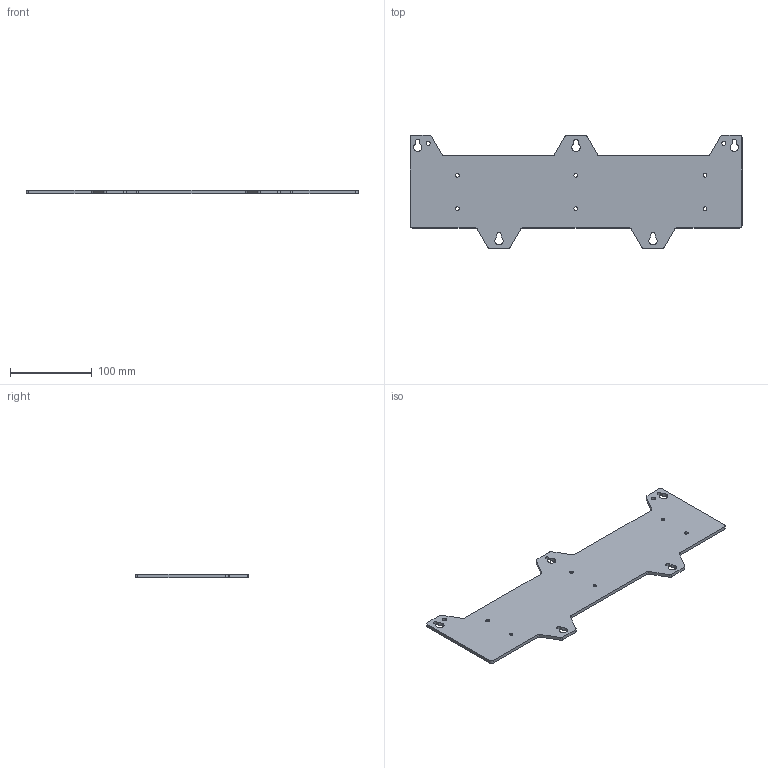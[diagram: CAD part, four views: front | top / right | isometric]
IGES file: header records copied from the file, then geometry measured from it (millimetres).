
Start section:  PTC IGES file: cu_panel_mount_crio_908x.igs
Global section: file name: cu_panel_mount_crio_908x.igs; native system: Pro/ENGINEER by Parametric Technology Corporation; preprocessor: 2011490; author: jbuhisan; organization: Unknown; date: 20140516.084712; units: inch
Bounding box: 406.4 x 138.94 x 4 mm (x, y, z)
Surface area: 85533.2 mm2 (no closed solid volume)
Topology: 0 solids, 0 shells, 90 faces, 504 edges, 504 vertices
Faces by surface type: revolution 58, bspline 32
